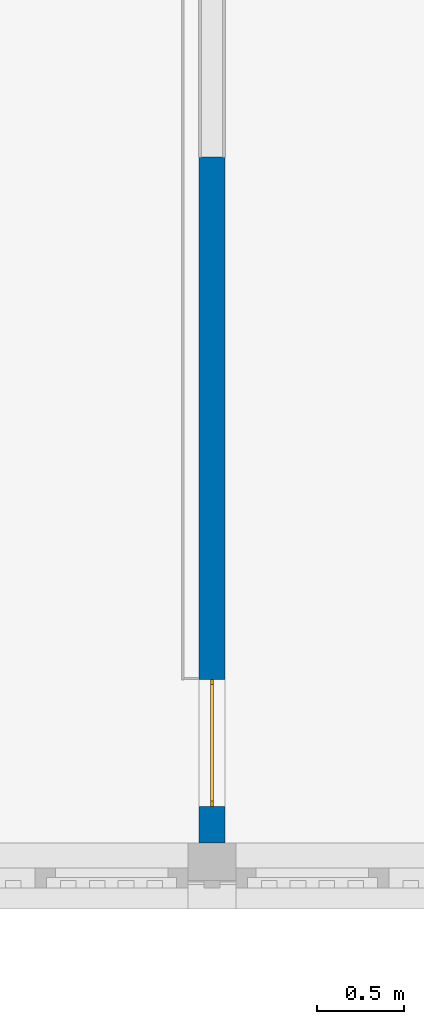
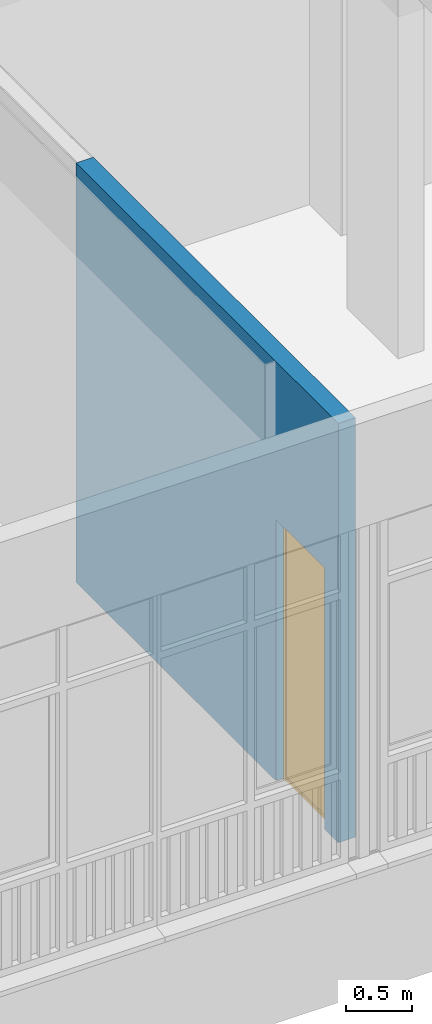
# One storey, part 45 of 135: 1 wall, 1 window, 1 opening.
"""IFC2X3 building model written with IfcOpenShell, lengths in millimetres."""

from ifc_helpers import new_model, entity, si_unit, converted_unit, derived_unit, money_unit, direction, frame, origin_with_axes, place, context, subcontext, project, spatial, open_shell, faceted_brep, surface_model, source, transform, mapped, material, type_object, type_shapes, element, fill, save


model = new_model("IFC2X3")

# Units and contexts
model_context = context("Model", 3, precision=0.01, world=origin_with_axes(), true_north=direction((0.0, 1.0)))
body_context = subcontext(model_context, "Body", "Model", "MODEL_VIEW")
ifc_project = project(units=[si_unit("LENGTHUNIT", "METRE", prefix="MILLI"), si_unit("AREAUNIT", "SQUARE_METRE"), si_unit("VOLUMEUNIT", "CUBIC_METRE"), converted_unit("PLANEANGLEUNIT", "DEGREE", entity("IfcPlaneAngleMeasure", 0.0174532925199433), si_unit("PLANEANGLEUNIT", "RADIAN"), dimensions=[0, 0, 0, 0, 0, 0, 0]), money_unit("EUR"), converted_unit("TIMEUNIT", "Year", entity("IfcTimeMeasure", 31557600.0), si_unit("TIMEUNIT", "SECOND"), dimensions=[0, 0, 1, 0, 0, 0, 0]), si_unit("MASSUNIT", "GRAM", prefix="KILO"), si_unit("THERMODYNAMICTEMPERATUREUNIT", "DEGREE_CELSIUS"), si_unit("LUMINOUSINTENSITYUNIT", "LUMEN"), si_unit("ENERGYUNIT", "JOULE", prefix="MEGA"), derived_unit("THERMALCONDUCTANCEUNIT", [(si_unit("POWERUNIT", "WATT"), 1), (si_unit("LENGTHUNIT", "METRE"), -1), (si_unit("THERMODYNAMICTEMPERATUREUNIT", "KELVIN"), -1)]), derived_unit("SPECIFICHEATCAPACITYUNIT", [(si_unit("ENERGYUNIT", "JOULE"), 1), (si_unit("MASSUNIT", "GRAM", prefix="KILO"), -1), (si_unit("THERMODYNAMICTEMPERATUREUNIT", "KELVIN"), -1)]), derived_unit("MASSDENSITYUNIT", [(si_unit("MASSUNIT", "GRAM", prefix="KILO"), 1), (si_unit("VOLUMEUNIT", "CUBIC_METRE"), -1)])], contexts=[model_context])

# Site, building, storey
site_placement = place(None, origin_with_axes())
site = spatial("IfcSite", under=ifc_project, at=site_placement, Name="Site", CompositionType="ELEMENT")
building_placement = place(site_placement, origin_with_axes())
building = spatial("IfcBuilding", under=site, at=building_placement, Name="Naam gebouw", CompositionType="ELEMENT")
storey_placement = place(building_placement, origin_with_axes())
storey = spatial("IfcBuildingStorey", under=building, at=storey_placement, Name="Begane grond N", CompositionType="ELEMENT", Elevation=0.0)

# Wall, opening, window
ifc_material = material(Name="ALG - CONSTRUCTIEF")
wall_type = type_object("IfcWallType", Name="ALG - CONSTRUCTIEF 150", PredefinedType="NOTDEFINED")
wall_placement = place(storey_placement, frame((43199.99999999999, 10825.91242510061, 0.0), z_axis=(0.0, 0.0, 1.0), x_axis=(0.0, 1.0, 0.0)))
wall = element("IfcWall", 1, at=wall_placement, inside=storey, type_object=wall_type, material=ifc_material, Name="_Wand-x", context=body_context, shape_type="Brep", body=[
    faceted_brep([(374.9999396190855, -75.00000000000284, 0.0), (374.9999396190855, -75.00000000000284, 2400.0), (1104.999939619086, -75.00000000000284, 2400.0), (1104.999939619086, -75.00000000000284, 0.0), (4110.99999999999, -75.00000000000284, 0.0), (4110.99999999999, -75.00000000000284, 3850.0), (164.9999999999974, -75.00000000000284, 3850.0), (164.9999999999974, -75.00000000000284, 0.0), (374.9999396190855, 9.99999999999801, 0.0), (374.9999396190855, 75.00000000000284, 0.0), (374.9999396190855, 75.00000000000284, 2400.0), (1104.999939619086, 75.00000000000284, 2400.0), (1104.999939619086, 9.99999999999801, 0.0), (1104.999939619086, 75.00000000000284, 0.0), (4110.99999999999, 75.00000000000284, 0.0), (4110.99999999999, 75.00000000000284, 3850.0), (164.9999999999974, 75.00000000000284, 3850.0), (164.9999999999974, 75.00000000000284, 0.0)], [[[0, 1, 2, 3, 4, 5, 6, 7]], [[1, 0, 8, 9, 10]], [[2, 1, 10, 11]], [[12, 3, 2, 11, 13]], [[3, 12, 13, 14, 4]], [[15, 5, 4, 14]], [[15, 16, 6, 5]], [[7, 6, 16, 17]], [[8, 0, 7, 17, 9]], [[14, 13, 11, 10, 9, 17, 16, 15]]]),
])
opening_placement = place(wall_placement, frame((739.9999396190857, 0.0, 0.0), z_axis=(0.0, 0.0, 1.0), x_axis=(1.0, 0.0, 0.0)))
opening = element("IfcOpeningElement", 2, at=opening_placement, cuts=wall, Name="_Merk-002", context=body_context, shape_type="Brep", body=[
    faceted_brep([(-365.0000000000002, 9.99999999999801, 0.0), (-365.0000000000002, 9.99999999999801, 2400.0), (-365.0000000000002, 76.00000000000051, 2400.0), (-365.0000000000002, 76.00000000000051, 0.0), (-365.0000000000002, -76.00000000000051, 0.0), (-365.0000000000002, -76.00000000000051, 2400.0), (365.0000000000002, 9.99999999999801, 2400.0), (365.0000000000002, 76.00000000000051, 2400.0), (365.0000000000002, -76.00000000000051, 2400.0), (365.0000000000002, 76.00000000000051, 0.0), (365.0000000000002, 9.99999999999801, 0.0), (365.0000000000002, -76.00000000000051, 0.0)], [[[0, 1, 2, 3]], [[1, 0, 4, 5]], [[6, 7, 2, 1, 5, 8]], [[7, 9, 3, 2]], [[0, 3, 9, 10, 11, 4]], [[5, 4, 11, 8]], [[6, 10, 9, 7]], [[10, 6, 8, 11]]]),
])
window_style = type_object("IfcWindowStyle", Name="R1 26", ConstructionType="NOTDEFINED", OperationType="SINGLE_PANEL", ParameterTakesPrecedence=False, Sizeable=False)
shared_shape = source(origin_with_axes(), body_context, "Body", "SurfaceModel", [
    faceted_brep([(-334.9999999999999, -20.00000000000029, 2370.0), (-334.9999999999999, 0.0, 2370.0), (-365.0, 0.0, 2370.0), (-365.0, -20.00000000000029, 2370.0), (-334.9999999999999, -20.0, 30.0), (-334.9999999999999, 0.0, 30.0), (-365.0, 0.0, 30.0), (-365.0, -20.0, 30.0)], [[[0, 1, 2, 3]], [[4, 5, 1, 0]], [[1, 5, 6, 2]], [[3, 2, 6, 7]], [[0, 3, 7, 4]], [[7, 6, 5, 4]]]),
    faceted_brep([(334.9999999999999, -20.0, 30.0), (334.9999999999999, 0.0, 30.0), (365.0, 0.0, 30.0), (365.0, -20.0, 30.0), (334.9999999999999, -20.00000000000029, 2370.0), (334.9999999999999, 0.0, 2370.0), (365.0, 0.0, 2370.0), (365.0, -20.00000000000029, 2370.0)], [[[0, 1, 2, 3]], [[4, 5, 1, 0]], [[1, 5, 6, 2]], [[3, 2, 6, 7]], [[0, 3, 7, 4]], [[7, 6, 5, 4]]]),
    faceted_brep([(-334.9999999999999, -20.0, 30.0), (-334.9999999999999, 0.0, 30.0), (-365.0, 0.0, 30.0), (-365.0, -20.0, 30.0), (334.9999999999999, -20.0, 30.0), (334.9999999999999, 0.0, 30.0), (365.0, 0.0, 30.0), (365.0, 0.0, 0.0), (-365.0, 0.0, 0.0), (-365.0, -20.0, 0.0), (365.0, -20.0, 0.0), (365.0, -20.0, 30.0)], [[[0, 1, 2, 3]], [[4, 5, 1, 0]], [[1, 5, 6, 7, 8, 2]], [[3, 2, 8, 9]], [[0, 3, 9, 10, 11, 4]], [[11, 6, 5, 4]], [[10, 7, 6, 11]], [[9, 8, 7, 10]]]),
    faceted_brep([(334.9999999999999, -20.00000000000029, 2370.0), (334.9999999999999, 0.0, 2370.0), (365.0, 0.0, 2370.0), (365.0, -20.00000000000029, 2370.0), (-334.9999999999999, -20.00000000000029, 2370.0), (-334.9999999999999, 0.0, 2370.0), (-365.0, 0.0, 2370.0), (-365.0, 0.0, 2400.0), (365.0, 0.0, 2400.0), (365.0, -20.00000000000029, 2400.0), (-365.0, -20.00000000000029, 2400.0), (-365.0, -20.00000000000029, 2370.0)], [[[0, 1, 2, 3]], [[4, 5, 1, 0]], [[1, 5, 6, 7, 8, 2]], [[3, 2, 8, 9]], [[0, 3, 9, 10, 11, 4]], [[11, 6, 5, 4]], [[10, 7, 6, 11]], [[9, 8, 7, 10]]]),
    surface_model("IfcShellBasedSurfaceModel", [(-334.9999999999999, -20.0, 30.0), (334.9999999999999, -20.0, 30.0), (334.9999999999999, -20.00000000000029, 2370.0), (-334.9999999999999, -20.00000000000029, 2370.0)], [open_shell([[[0, 1, 2, 3]]])]),
    surface_model("IfcShellBasedSurfaceModel", [(-334.9999999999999, -10.0, 30.0), (-334.9999999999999, -10.00000000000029, 2370.0), (334.9999999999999, -10.00000000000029, 2370.0), (334.9999999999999, -10.0, 30.0)], [open_shell([[[0, 1, 2, 3]]])]),
])
type_shapes(window_style, [shared_shape])
window_placement = place(opening_placement, frame((-365.0000000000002, 0.0, 0.0), z_axis=(0.0, 0.0, 1.0), x_axis=(1.0, 0.0, 0.0)))
window = element("IfcWindow", 3, at=window_placement, inside=storey, type_object=window_style, Name="_Merk-002", ObjectType="WINDOW", OverallHeight=2400.0, OverallWidth=730.0, context=body_context, shape_type="MappedRepresentation", body=[
    mapped(shared_shape, transform((365.0000000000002, 9.99999999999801, 0.0))),
])
fill(opening, window)

save(model, "model.ifc")
